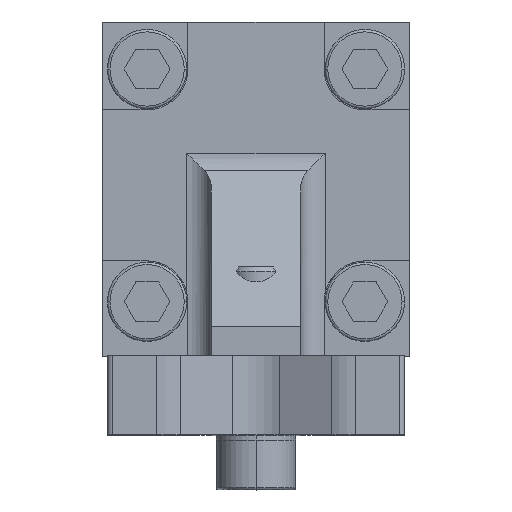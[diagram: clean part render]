
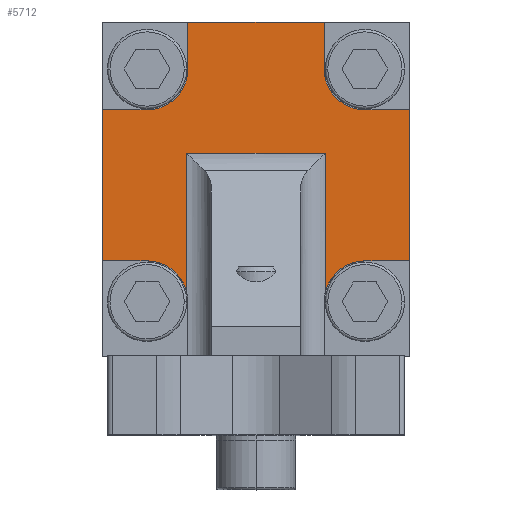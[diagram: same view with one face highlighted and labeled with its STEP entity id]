
A CAD part, top view. The second image highlights one B-rep face of the part: STEP entity #5712.
In plain terms, the highlighted planar face has unit normal (0, 0, 1).
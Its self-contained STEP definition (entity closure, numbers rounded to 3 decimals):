
#8 = EDGE_CURVE ( 'NONE', #6825, #6686, #4707, .T. ) ;
#158 = LINE ( 'NONE', #6815, #4142 ) ;
#213 = CARTESIAN_POINT ( 'NONE',  ( 13.75, 83.5, 16. ) ) ;
#300 = CARTESIAN_POINT ( 'NONE',  ( -22., 27., 16. ) ) ;
#318 = ORIENTED_EDGE ( 'NONE', *, *, #2131, .F. ) ;
#483 = DIRECTION ( 'NONE',  ( 0., 0., 1. ) ) ;
#526 = CARTESIAN_POINT ( 'NONE',  ( -22., 35.25, 16. ) ) ;
#664 = VERTEX_POINT ( 'NONE', #6091 ) ;
#989 = CARTESIAN_POINT ( 'NONE',  ( -31., 83.5, 16. ) ) ;
#1030 = EDGE_CURVE ( 'NONE', #4265, #1926, #5984, .T. ) ;
#1108 = EDGE_CURVE ( 'NONE', #1579, #3507, #5031, .T. ) ;
#1151 = VERTEX_POINT ( 'NONE', #3820 ) ;
#1232 = DIRECTION ( 'NONE',  ( -1., 0., 0. ) ) ;
#1407 = DIRECTION ( 'NONE',  ( 1., 0., 0. ) ) ;
#1436 = ORIENTED_EDGE ( 'NONE', *, *, #7538, .T. ) ;
#1534 = CIRCLE ( 'NONE', #6147, 8.25 ) ;
#1579 = VERTEX_POINT ( 'NONE', #2955 ) ;
#1587 = CARTESIAN_POINT ( 'NONE',  ( 0., 0., 16. ) ) ;
#1593 = DIRECTION ( 'NONE',  ( -1., 0., 0. ) ) ;
#1633 = DIRECTION ( 'NONE',  ( -1., 0., 0. ) ) ;
#1673 = EDGE_CURVE ( 'NONE', #5887, #5386, #3201, .T. ) ;
#1785 = CARTESIAN_POINT ( 'NONE',  ( 31., 65.75, 16. ) ) ;
#1926 = VERTEX_POINT ( 'NONE', #4299 ) ;
#1953 = LINE ( 'NONE', #7555, #7609 ) ;
#2016 = CARTESIAN_POINT ( 'NONE',  ( 13.75, 74., 16. ) ) ;
#2042 = CARTESIAN_POINT ( 'NONE',  ( 0., 65.75, 16. ) ) ;
#2044 = ORIENTED_EDGE ( 'NONE', *, *, #5073, .F. ) ;
#2099 = VECTOR ( 'NONE', #3004, 1000. ) ;
#2131 = EDGE_CURVE ( 'NONE', #2743, #4615, #2158, .T. ) ;
#2158 = LINE ( 'NONE', #4613, #3961 ) ;
#2273 = ORIENTED_EDGE ( 'NONE', *, *, #8, .F. ) ;
#2329 = VERTEX_POINT ( 'NONE', #213 ) ;
#2372 = ORIENTED_EDGE ( 'NONE', *, *, #1108, .T. ) ;
#2502 = ORIENTED_EDGE ( 'NONE', *, *, #1030, .F. ) ;
#2513 = DIRECTION ( 'NONE',  ( -1., 0., 0. ) ) ;
#2552 = EDGE_LOOP ( 'NONE', ( #318, #5206, #3577, #6695, #5171, #7101, #6623, #2372, #5912, #2502, #5251, #3832, #2273, #7045, #2044, #1436 ) ) ;
#2619 = AXIS2_PLACEMENT_3D ( 'NONE', #300, #6944, #3989 ) ;
#2625 = EDGE_CURVE ( 'NONE', #2329, #6686, #6847, .T. ) ;
#2698 = VERTEX_POINT ( 'NONE', #5685 ) ;
#2743 = VERTEX_POINT ( 'NONE', #526 ) ;
#2913 = CARTESIAN_POINT ( 'NONE',  ( -14., 57.036, 16. ) ) ;
#2955 = CARTESIAN_POINT ( 'NONE',  ( 31., 35.25, 16. ) ) ;
#2960 = CARTESIAN_POINT ( 'NONE',  ( 14., 29.016, 16. ) ) ;
#3004 = DIRECTION ( 'NONE',  ( 1., 0., 0. ) ) ;
#3034 = EDGE_CURVE ( 'NONE', #2698, #6825, #1534, .T. ) ;
#3061 = DIRECTION ( 'NONE',  ( -1., 0., 0. ) ) ;
#3125 = CARTESIAN_POINT ( 'NONE',  ( 22., 74., 16. ) ) ;
#3156 = CARTESIAN_POINT ( 'NONE',  ( 31., 0., 16. ) ) ;
#3201 = LINE ( 'NONE', #6817, #3692 ) ;
#3398 = DIRECTION ( 'NONE',  ( -1., 0., 0. ) ) ;
#3507 = VERTEX_POINT ( 'NONE', #1785 ) ;
#3577 = ORIENTED_EDGE ( 'NONE', *, *, #5652, .T. ) ;
#3613 = AXIS2_PLACEMENT_3D ( 'NONE', #1587, #7150, #1633 ) ;
#3692 = VECTOR ( 'NONE', #6377, 1000. ) ;
#3787 = VECTOR ( 'NONE', #5991, 1000. ) ;
#3808 = DIRECTION ( 'NONE',  ( -1., 0., 0. ) ) ;
#3820 = CARTESIAN_POINT ( 'NONE',  ( -14., 57.036, 16. ) ) ;
#3832 = ORIENTED_EDGE ( 'NONE', *, *, #2625, .T. ) ;
#3897 = VECTOR ( 'NONE', #6656, 1000. ) ;
#3961 = VECTOR ( 'NONE', #3398, 1000. ) ;
#3989 = DIRECTION ( 'NONE',  ( -1., 0., 0. ) ) ;
#4043 = CIRCLE ( 'NONE', #2619, 8.25 ) ;
#4056 = EDGE_CURVE ( 'NONE', #2329, #4265, #158, .T. ) ;
#4142 = VECTOR ( 'NONE', #6778, 1000. ) ;
#4236 = CARTESIAN_POINT ( 'NONE',  ( -13.75, 0., 16. ) ) ;
#4244 = CARTESIAN_POINT ( 'NONE',  ( -13.75, 74., 16. ) ) ;
#4265 = VERTEX_POINT ( 'NONE', #2016 ) ;
#4284 = LINE ( 'NONE', #2042, #7336 ) ;
#4299 = CARTESIAN_POINT ( 'NONE',  ( 22., 65.75, 16. ) ) ;
#4384 = CARTESIAN_POINT ( 'NONE',  ( 0., 35.25, 16. ) ) ;
#4446 = DIRECTION ( 'NONE',  ( 0., 1., 0. ) ) ;
#4613 = CARTESIAN_POINT ( 'NONE',  ( 0., 35.25, 16. ) ) ;
#4615 = VERTEX_POINT ( 'NONE', #5132 ) ;
#4625 = CARTESIAN_POINT ( 'NONE',  ( -31., 65.75, 16. ) ) ;
#4707 = LINE ( 'NONE', #4236, #3897 ) ;
#4717 = VERTEX_POINT ( 'NONE', #4625 ) ;
#4728 = VECTOR ( 'NONE', #3808, 1000. ) ;
#5031 = LINE ( 'NONE', #3156, #7000 ) ;
#5073 = EDGE_CURVE ( 'NONE', #4717, #2698, #7808, .T. ) ;
#5129 = VECTOR ( 'NONE', #3061, 1000. ) ;
#5132 = CARTESIAN_POINT ( 'NONE',  ( -31., 35.25, 16. ) ) ;
#5171 = ORIENTED_EDGE ( 'NONE', *, *, #1673, .T. ) ;
#5206 = ORIENTED_EDGE ( 'NONE', *, *, #5573, .F. ) ;
#5235 = CARTESIAN_POINT ( 'NONE',  ( 22., 27., 16. ) ) ;
#5251 = ORIENTED_EDGE ( 'NONE', *, *, #4056, .F. ) ;
#5253 = EDGE_CURVE ( 'NONE', #664, #5386, #6199, .T. ) ;
#5348 = LINE ( 'NONE', #2913, #3787 ) ;
#5386 = VERTEX_POINT ( 'NONE', #2960 ) ;
#5566 = DIRECTION ( 'NONE',  ( 0., 0., 1. ) ) ;
#5573 = EDGE_CURVE ( 'NONE', #5842, #2743, #4043, .T. ) ;
#5593 = CARTESIAN_POINT ( 'NONE',  ( -13.75, 83.5, 16. ) ) ;
#5635 = DIRECTION ( 'NONE',  ( 0., -1., 0. ) ) ;
#5652 = EDGE_CURVE ( 'NONE', #5842, #1151, #5348, .T. ) ;
#5685 = CARTESIAN_POINT ( 'NONE',  ( -22., 65.75, 16. ) ) ;
#5711 = AXIS2_PLACEMENT_3D ( 'NONE', #3125, #5566, #2513 ) ;
#5712 = ADVANCED_FACE ( 'NONE', ( #6624 ), #7880, .F. ) ;
#5752 = DIRECTION ( 'NONE',  ( 0., 0., 1. ) ) ;
#5842 = VERTEX_POINT ( 'NONE', #6586 ) ;
#5867 = EDGE_CURVE ( 'NONE', #1579, #664, #7265, .T. ) ;
#5887 = VERTEX_POINT ( 'NONE', #6143 ) ;
#5912 = ORIENTED_EDGE ( 'NONE', *, *, #6885, .F. ) ;
#5984 = CIRCLE ( 'NONE', #5711, 8.25 ) ;
#5991 = DIRECTION ( 'NONE',  ( 0., 1., 0. ) ) ;
#6007 = CARTESIAN_POINT ( 'NONE',  ( 0., 65.75, 16. ) ) ;
#6091 = CARTESIAN_POINT ( 'NONE',  ( 22., 35.25, 16. ) ) ;
#6117 = CARTESIAN_POINT ( 'NONE',  ( -22., 74., 16. ) ) ;
#6143 = CARTESIAN_POINT ( 'NONE',  ( 14., 57.036, 16. ) ) ;
#6147 = AXIS2_PLACEMENT_3D ( 'NONE', #6117, #483, #1232 ) ;
#6199 = CIRCLE ( 'NONE', #7104, 8.25 ) ;
#6377 = DIRECTION ( 'NONE',  ( 0., -1., 0. ) ) ;
#6586 = CARTESIAN_POINT ( 'NONE',  ( -14., 29.016, 16. ) ) ;
#6601 = EDGE_CURVE ( 'NONE', #5887, #1151, #7324, .T. ) ;
#6623 = ORIENTED_EDGE ( 'NONE', *, *, #5867, .F. ) ;
#6624 = FACE_OUTER_BOUND ( 'NONE', #2552, .T. ) ;
#6656 = DIRECTION ( 'NONE',  ( 0., 1., 0. ) ) ;
#6681 = CARTESIAN_POINT ( 'NONE',  ( 9., 57.036, 16. ) ) ;
#6686 = VERTEX_POINT ( 'NONE', #5593 ) ;
#6695 = ORIENTED_EDGE ( 'NONE', *, *, #6601, .F. ) ;
#6778 = DIRECTION ( 'NONE',  ( 0., -1., 0. ) ) ;
#6815 = CARTESIAN_POINT ( 'NONE',  ( 13.75, 0., 16. ) ) ;
#6817 = CARTESIAN_POINT ( 'NONE',  ( 14., 0., 16. ) ) ;
#6825 = VERTEX_POINT ( 'NONE', #4244 ) ;
#6847 = LINE ( 'NONE', #989, #4728 ) ;
#6885 = EDGE_CURVE ( 'NONE', #1926, #3507, #4284, .T. ) ;
#6944 = DIRECTION ( 'NONE',  ( 0., 0., 1. ) ) ;
#7000 = VECTOR ( 'NONE', #4446, 1000. ) ;
#7045 = ORIENTED_EDGE ( 'NONE', *, *, #3034, .F. ) ;
#7101 = ORIENTED_EDGE ( 'NONE', *, *, #5253, .F. ) ;
#7104 = AXIS2_PLACEMENT_3D ( 'NONE', #5235, #5752, #1593 ) ;
#7150 = DIRECTION ( 'NONE',  ( 0., 0., -1. ) ) ;
#7265 = LINE ( 'NONE', #4384, #5129 ) ;
#7287 = DIRECTION ( 'NONE',  ( -1., 0., 0. ) ) ;
#7324 = LINE ( 'NONE', #6681, #7848 ) ;
#7336 = VECTOR ( 'NONE', #1407, 1000. ) ;
#7538 = EDGE_CURVE ( 'NONE', #4717, #4615, #1953, .T. ) ;
#7555 = CARTESIAN_POINT ( 'NONE',  ( -31., 0., 16. ) ) ;
#7609 = VECTOR ( 'NONE', #5635, 1000. ) ;
#7808 = LINE ( 'NONE', #6007, #2099 ) ;
#7848 = VECTOR ( 'NONE', #7287, 1000. ) ;
#7880 = PLANE ( 'NONE',  #3613 ) ;
